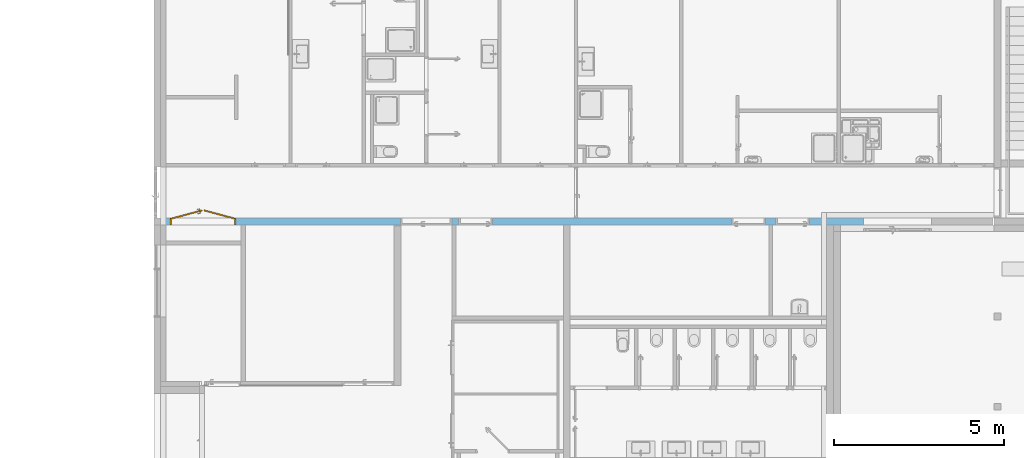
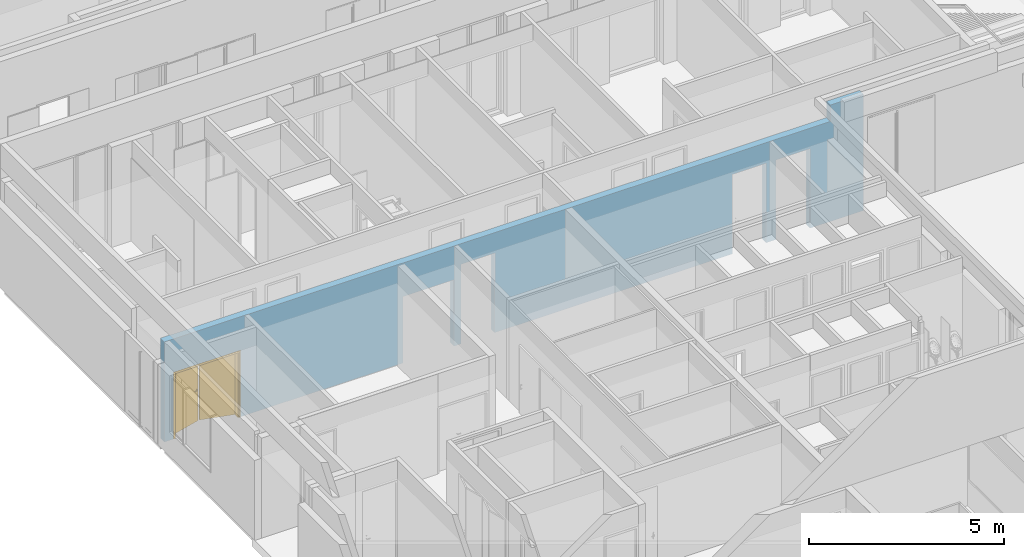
# One storey, part 201 of 240: 1 door, 6 openings, plus 1 element that does not belong to this part.
"""IFC2X3 building model written with IfcOpenShell, lengths in centimetres."""

from ifc_helpers import new_model, entity, si_unit, converted_unit, derived_unit, direction, frame, frame_2d, origin, place, context, subcontext, project, spatial, rectangle, extrude, faceted_brep, source, transform, mapped, material, material_list, layer, layer_set, layer_usage, type_object, type_shapes, element, fill, save


model = new_model("IFC2X3")

# Units and contexts
model_context = context("Model", 3, precision=0.001, world=origin(), true_north=direction((6.12303176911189e-17, 1.0)))
body_context = subcontext(model_context, "Body", "Model", "MODEL_VIEW")
ifc_project = project(units=[si_unit("LENGTHUNIT", "METRE", prefix="CENTI"), si_unit("AREAUNIT", "SQUARE_METRE"), si_unit("VOLUMEUNIT", "CUBIC_METRE"), converted_unit("PLANEANGLEUNIT", "DEGREE", entity("IfcRatioMeasure", 0.0174532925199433), si_unit("PLANEANGLEUNIT", "RADIAN"), dimensions=[0, 0, 0, 0, 0, 0, 0]), si_unit("MASSUNIT", "GRAM", prefix="KILO"), derived_unit("MASSDENSITYUNIT", [(si_unit("MASSUNIT", "GRAM", prefix="KILO"), 1), (si_unit("LENGTHUNIT", "METRE"), -3)]), si_unit("TIMEUNIT", "SECOND"), si_unit("FREQUENCYUNIT", "HERTZ"), si_unit("THERMODYNAMICTEMPERATUREUNIT", "DEGREE_CELSIUS"), derived_unit("THERMALTRANSMITTANCEUNIT", [(si_unit("MASSUNIT", "GRAM", prefix="KILO"), 1), (si_unit("THERMODYNAMICTEMPERATUREUNIT", "KELVIN"), -1), (si_unit("TIMEUNIT", "SECOND"), -3)]), derived_unit("VOLUMETRICFLOWRATEUNIT", [(si_unit("LENGTHUNIT", "METRE"), 3), (si_unit("TIMEUNIT", "SECOND"), -1)]), si_unit("ELECTRICCURRENTUNIT", "AMPERE"), si_unit("ELECTRICVOLTAGEUNIT", "VOLT"), si_unit("POWERUNIT", "WATT"), si_unit("FORCEUNIT", "NEWTON", prefix="KILO"), si_unit("ILLUMINANCEUNIT", "LUX"), si_unit("LUMINOUSFLUXUNIT", "LUMEN"), si_unit("LUMINOUSINTENSITYUNIT", "CANDELA"), derived_unit("USERDEFINED", [(si_unit("MASSUNIT", "GRAM", prefix="KILO"), -1), (si_unit("LENGTHUNIT", "METRE"), -2), (si_unit("TIMEUNIT", "SECOND"), 3), (si_unit("LUMINOUSFLUXUNIT", "LUMEN"), 1)]), derived_unit("LINEARVELOCITYUNIT", [(si_unit("LENGTHUNIT", "METRE"), 1), (si_unit("TIMEUNIT", "SECOND"), -1)]), si_unit("PRESSUREUNIT", "PASCAL"), derived_unit("USERDEFINED", [(si_unit("LENGTHUNIT", "METRE"), -2), (si_unit("MASSUNIT", "GRAM", prefix="KILO"), 1), (si_unit("TIMEUNIT", "SECOND"), -2)])], contexts=[model_context])

# Site, building, storey
site_placement = place(None, frame((-2781.94577612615, 7442.24238424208, 0.0)))
site = spatial("IfcSite", under=ifc_project, at=site_placement, Name="Default", CompositionType="ELEMENT")
building_placement = place(site_placement, origin())
building = spatial("IfcBuilding", under=site, at=building_placement, CompositionType="ELEMENT")
storey_placement = place(building_placement, origin())
storey = spatial("IfcBuildingStorey", under=building, at=storey_placement, Name="N00 - COO", CompositionType="ELEMENT", Elevation=0.0)

# Wall, openings, door
ifc_material_1 = material(Name="01 - Maçonnerie")
ifc_layer = layer(ifc_material_1, 20.0)
ifc_layer_set = layer_set([ifc_layer], Name="Mur de base:04 - Structure - béton - 20cm")
ifc_layer_usage = layer_usage(ifc_layer_set, "AXIS2", "NEGATIVE", 10.0)
wall_type = type_object("IfcWallType", Name="Mur de base:04 - Structure - béton - 20cm", PredefinedType="STANDARD", material=ifc_layer_set)
wall_placement = place(building_placement, frame((-10881.6130476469, -1920.07903364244, 0.0)))
wall = element("IfcWallStandardCase", 1, at=wall_placement, inside=storey, type_object=wall_type, material=ifc_layer_usage, Name="Mur de base:04 - Structure - béton - 20cm", ObjectType="Mur de base:04 - Structure - béton - 20cm", context=body_context, shape_type="SweptSolid", body=[
    extrude(rectangle(XDim=2067.62566675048, YDim=19.9999999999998, at=frame_2d((1033.81283337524, 9.32587340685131e-14), x_axis=(-1.0, 0.0))), origin(), (0.0, 0.0, 1.0), 364.000000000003),
])
opening_1_placement = place(wall_placement, origin())
element("IfcOpeningElement", 2, at=opening_1_placement, cuts=wall, Name="Mur de base:04 - Structure - béton - 20cm:4570", ObjectType="Opening", context=body_context, shape_type="SweptSolid", body=[
    extrude(rectangle(XDim=51.0000000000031, YDim=1979.68086759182, at=frame_2d((0.0, 0.0), x_axis=(0.0, 1.0))), frame((979.840433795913, 10.0, 338.500000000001), z_axis=(0.0, -1.0, 0.0), x_axis=(-1.0, 0.0, 0.0)), (0.0, 0.0, 1.0), 20.0),
])
opening_2_placement = place(wall_placement, frame((856.778497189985, 10.0, 0.0)))
element("IfcOpeningElement", 3, at=opening_2_placement, cuts=wall, Name="Int. Tierce:PP (1.44m x 2.04m):1", ObjectType="Opening", context=body_context, shape_type="SweptSolid", body=[
    extrude(rectangle(XDim=207.500000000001, YDim=151.0, at=frame_2d((103.750000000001, 75.4999999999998), x_axis=(1.0, 0.0))), frame((0.0, 0.0, 0.0), z_axis=(0.0, -1.0, 0.0), x_axis=(0.0, 0.0, 1.0)), (0.0, 0.0, 1.0), 20.0),
])
opening_3_placement = place(wall_placement, frame((976.778497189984, 10.0, 0.0)))
element("IfcOpeningElement", 4, at=opening_3_placement, cuts=wall, Name="Int. Simple:PP simple (0.93m x 2.50m):1", ObjectType="Opening", context=body_context, shape_type="SweptSolid", body=[
    extrude(rectangle(XDim=248.500000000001, YDim=99.9999999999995, at=frame_2d((124.250000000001, 49.9999999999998), x_axis=(1.0, 0.0))), frame((0.0, 0.0, 0.0), z_axis=(0.0, -1.0, 0.0), x_axis=(0.0, 0.0, 1.0)), (0.0, 0.0, 1.0), 20.0),
])
opening_4_placement = place(wall_placement, frame((1779.61305066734, 10.0, 0.0)))
element("IfcOpeningElement", 5, at=opening_4_placement, cuts=wall, Name="Int. Simple:PP simple (0.93m x 2.50m):1", ObjectType="Opening", context=body_context, shape_type="SweptSolid", body=[
    extrude(rectangle(XDim=248.500000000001, YDim=99.9999999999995, at=frame_2d((124.250000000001, 50.0), x_axis=(1.0, 0.0))), frame((0.0, 0.0, 0.0), z_axis=(0.0, -1.0, 0.0), x_axis=(0.0, 0.0, 1.0)), (0.0, 0.0, 1.0), 20.0),
])
opening_5_placement = place(wall_placement, frame((1909.61305066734, 10.0, 0.0)))
element("IfcOpeningElement", 6, at=opening_5_placement, cuts=wall, Name="Int. Simple:PP simple (0.93m x 2.50m):1", ObjectType="Opening", context=body_context, shape_type="SweptSolid", body=[
    extrude(rectangle(XDim=248.500000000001, YDim=99.9999999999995, at=frame_2d((124.250000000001, 49.9999999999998), x_axis=(1.0, 0.0))), frame((0.0, 0.0, 0.0), z_axis=(0.0, -1.0, 0.0), x_axis=(0.0, 0.0, 1.0)), (0.0, 0.0, 1.0), 20.0),
])
opening_6_placement = place(wall_placement, frame((27.500000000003, -10.0, 0.0)))
opening_6 = element("IfcOpeningElement", 7, at=opening_6_placement, cuts=wall, Name="Int. Double:PP Placard (1.88m x 2.04m):1", ObjectType="Opening", context=body_context, shape_type="SweptSolid", body=[
    extrude(rectangle(XDim=207.500000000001, YDim=195.0, at=frame_2d((103.750000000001, 97.5000000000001), x_axis=(1.0, 0.0))), frame((0.0, 0.0, 0.0), z_axis=(0.0, 1.0, 0.0), x_axis=(0.0, 0.0, 1.0)), (0.0, 0.0, 1.0), 20.0),
])
ifc_material_2 = material(Name="Bois - Panneau de porte")
ifc_material_3 = material(Name="Finition Peinture - Blanc satiné")
ifc_material_4 = material(Name="Bois - Cadre de porte")
ifc_material_list_1 = material_list([ifc_material_2, ifc_material_3, ifc_material_4])
ifc_material_list_2 = material_list([ifc_material_2, ifc_material_3, ifc_material_4])
door_style = type_object("IfcDoorStyle", Name="PP Placard (1.88m x 2.04m)", ConstructionType="NOTDEFINED", OperationType="DOUBLE_DOOR_SINGLE_SWING", ParameterTakesPrecedence=False, Sizeable=False, material=ifc_material_list_2)
shared_shape = source(origin(), body_context, "Body", "Brep", [
    faceted_brep([(95.3323038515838, -20.4652869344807, 204.0), (95.3323038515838, -20.4652869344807, 0.0), (4.53527618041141, 3.86370330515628, 0.0), (4.5352761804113, 3.86370330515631, 204.0), (94.2970276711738, -24.3289902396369, 204.0), (3.50000000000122, 0.0, 204.0), (3.50000000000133, 0.0, 0.0), (94.2970276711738, -24.3289902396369, 0.0)], [[[0, 1, 2, 3]], [[4, 5, 6, 7]], [[3, 5, 4, 0]], [[2, 6, 5, 3]], [[1, 7, 6, 2]], [[0, 4, 7, 1]]]),
    faceted_brep([(107.627936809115, -22.9910896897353, 86.6003983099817), (108.559788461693, -22.7414007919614, 87.0), (108.559788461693, -22.7414007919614, 108.0), (107.627936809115, -22.9910896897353, 108.399601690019), (106.627936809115, -23.2590388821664, 108.535898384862), (105.627936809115, -23.5269880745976, 108.399601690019), (104.696085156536, -23.7766769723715, 108.0), (104.696085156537, -23.7766769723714, 87.0), (105.627936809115, -23.5269880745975, 86.6003983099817), (106.627936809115, -23.2590388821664, 86.464101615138), (107.498527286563, -22.5081267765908, 108.399601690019), (108.430378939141, -22.2584378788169, 108.0), (108.430378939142, -22.2584378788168, 87.0), (107.498527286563, -22.5081267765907, 86.6003983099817), (106.498527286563, -22.7760759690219, 86.464101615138), (105.498527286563, -23.044025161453, 86.6003983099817), (104.566675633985, -23.2937140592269, 87.0), (104.566675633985, -23.2937140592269, 108.0), (105.498527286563, -23.044025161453, 108.399601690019), (106.498527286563, -22.7760759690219, 108.535898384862)], [[[0, 1, 2, 3, 4, 5, 6, 7, 8, 9]], [[10, 11, 12, 13, 14, 15, 16, 17, 18, 19]], [[16, 15, 8, 7]], [[8, 15, 14, 9]], [[14, 13, 0, 9]], [[13, 12, 1, 0]], [[2, 1, 12, 11]], [[11, 10, 3, 2]], [[3, 10, 19, 4]], [[19, 18, 5, 4]], [[18, 17, 6, 5]], [[7, 6, 17, 16]]]),
    faceted_brep([(106.463251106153, -18.6444234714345, 86.6003983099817), (107.395102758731, -18.3947345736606, 87.0), (107.395102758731, -18.3947345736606, 108.0), (106.463251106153, -18.6444234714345, 108.399601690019), (105.463251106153, -18.9123726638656, 108.535898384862), (104.463251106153, -19.1803218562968, 108.399601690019), (103.531399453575, -19.4300107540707, 108.0), (103.531399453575, -19.4300107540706, 87.0), (104.463251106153, -19.1803218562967, 86.6003983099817), (105.463251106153, -18.9123726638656, 86.464101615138), (106.333841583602, -18.16146055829, 108.399601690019), (107.26569323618, -17.9117716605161, 108.0), (107.26569323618, -17.911771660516, 87.0), (106.333841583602, -18.1614605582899, 86.6003983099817), (105.333841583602, -18.4294097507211, 86.464101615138), (104.333841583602, -18.6973589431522, 86.6003983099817), (103.401989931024, -18.9470478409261, 87.0), (103.401989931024, -18.9470478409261, 108.0), (104.333841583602, -18.6973589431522, 108.399601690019), (105.333841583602, -18.4294097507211, 108.535898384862)], [[[0, 1, 2, 3, 4, 5, 6, 7, 8, 9]], [[10, 11, 12, 13, 14, 15, 16, 17, 18, 19]], [[11, 10, 3, 2]], [[3, 10, 19, 4]], [[19, 18, 5, 4]], [[18, 17, 6, 5]], [[7, 6, 17, 16]], [[16, 15, 8, 7]], [[8, 15, 14, 9]], [[14, 13, 0, 9]], [[13, 12, 1, 0]], [[2, 1, 12, 11]]]),
    faceted_brep([(106.432307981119, -23.311457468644, 100.778044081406), (106.82356563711, -23.2066202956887, 100.778044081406), (107.207492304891, -23.1037474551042, 100.699999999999), (107.20749230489, -23.1037474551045, 99.3000000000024), (106.82356563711, -23.2066202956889, 99.2219559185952), (106.432307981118, -23.3114574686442, 99.221955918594), (106.048381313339, -23.4143303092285, 99.2999999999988), (106.048381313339, -23.4143303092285, 100.7), (106.764040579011, -26.085207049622, 100.7), (107.105355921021, -25.8233065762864, 100.778044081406), (109.070934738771, -26.958134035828, 100.778044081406), (109.12816179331, -26.5234514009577, 100.778044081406), (107.453188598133, -25.5564051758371, 100.778044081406), (107.794503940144, -25.2945047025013, 100.7), (107.794503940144, -25.2945047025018, 99.3000000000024), (107.453188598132, -25.5564051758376, 99.2219559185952), (109.12816179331, -26.5234514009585, 99.2219559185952), (109.070934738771, -26.9581340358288, 99.221955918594), (107.10535592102, -25.8233065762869, 99.221955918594), (106.76404057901, -26.0852070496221, 99.2999999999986), (109.014779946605, -27.3846720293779, 100.7), (109.184316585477, -26.0969134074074, 100.7), (109.184316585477, -26.0969134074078, 99.3000000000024), (109.014779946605, -27.3846720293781, 99.2999999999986), (117.480292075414, -25.1163448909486, 99.2999999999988), (117.37741923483, -24.7324182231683, 99.221955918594), (117.272582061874, -24.341160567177, 99.2219559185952), (117.169709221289, -23.957233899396, 99.3000000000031), (117.16970922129, -23.9572338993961, 100.7), (117.272582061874, -24.3411605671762, 100.778044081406), (117.377419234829, -24.7324182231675, 100.778044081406), (117.480292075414, -25.1163448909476, 100.699999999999), (112.871768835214, -26.3511949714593, 100.7), (113.252790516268, -25.6279348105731, 100.78786867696), (113.177012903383, -25.0270736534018, 100.7), (113.177012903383, -25.027073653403, 99.3000000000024), (113.252790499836, -25.627934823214, 99.2121313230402), (112.871769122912, -26.3511948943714, 99.2999999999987)], [[[0, 1, 2, 3, 4, 5, 6, 7]], [[8, 9, 0, 7]], [[9, 10, 11, 12, 1, 0]], [[12, 13, 2, 1]], [[3, 2, 13, 14]], [[14, 15, 4, 3]], [[15, 16, 17, 18, 5, 4]], [[18, 19, 6, 5]], [[7, 6, 19, 8]], [[20, 10, 9, 8]], [[11, 21, 13, 12]], [[14, 13, 21, 22]], [[22, 16, 15, 14]], [[17, 23, 19, 18]], [[8, 19, 23, 20]], [[24, 25, 26, 27, 28, 29, 30, 31]], [[32, 30, 33]], [[31, 30, 32]], [[10, 20, 32]], [[33, 34, 11]], [[21, 11, 34]], [[34, 29, 28]], [[30, 29, 33]], [[29, 34, 33]], [[10, 32, 33]], [[10, 33, 11]], [[22, 21, 34, 28, 27, 35]], [[35, 26, 36]], [[37, 36, 25]], [[22, 35, 16]], [[35, 27, 26]], [[24, 37, 25]], [[23, 17, 37]], [[37, 17, 36]], [[17, 16, 36]], [[16, 35, 36]], [[25, 36, 26]], [[20, 23, 37, 24, 31, 32]]]),
    faceted_brep([(105.138212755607, -18.4818283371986, 100.778044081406), (104.754286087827, -18.5847011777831, 100.7), (104.754286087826, -18.5847011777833, 99.2999999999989), (105.138212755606, -18.4818283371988, 99.221955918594), (105.529470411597, -18.3769911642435, 99.2219559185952), (105.913397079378, -18.2741183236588, 99.3000000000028), (105.913397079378, -18.2741183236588, 100.7), (105.529470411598, -18.3769911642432, 100.778044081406), (105.331437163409, -16.1022143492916, 99.3000000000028), (105.331437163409, -16.1022143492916, 100.7), (104.904899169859, -16.0460595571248, 100.778044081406), (105.881668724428, -14.3542450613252, 100.778044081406), (105.614767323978, -14.0064123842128, 100.778044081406), (104.470216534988, -15.9888325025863, 100.778044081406), (104.043678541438, -15.9326777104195, 100.7), (104.043678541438, -15.9326777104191, 99.2999999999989), (104.470216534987, -15.9888325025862, 99.221955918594), (105.614767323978, -14.006412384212, 99.221955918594), (105.881668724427, -14.3542450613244, 99.2219559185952), (104.904899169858, -16.0460595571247, 99.2219559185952), (106.143569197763, -14.6955604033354, 99.3000000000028), (106.143569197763, -14.6955604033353, 100.7), (105.352866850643, -13.6650970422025, 100.7), (105.352866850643, -13.6650970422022, 99.2999999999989), (114.118301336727, -12.5587373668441, 99.3000000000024), (114.015428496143, -12.1748106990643, 99.2219559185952), (113.910591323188, -11.783553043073, 99.221955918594), (113.807718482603, -11.3996263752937, 99.2999999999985), (113.807718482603, -11.3996263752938, 100.7), (113.910591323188, -11.7835530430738, 100.778044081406), (114.015428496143, -12.1748106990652, 100.778044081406), (114.118301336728, -12.5587373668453, 100.7), (110.130934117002, -13.6271491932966, 99.3000000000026), (110.130935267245, -13.6271488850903, 100.7), (109.896130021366, -13.0688990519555, 100.78786867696), (109.209855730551, -12.6316199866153, 100.7), (109.209855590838, -12.6316200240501, 99.2999999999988), (109.896130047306, -13.0688990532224, 99.2121313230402)], [[[0, 1, 2, 3, 4, 5, 6, 7]], [[6, 5, 8, 9]], [[9, 10, 7, 6]], [[10, 11, 12, 13, 0, 7]], [[13, 14, 1, 0]], [[2, 1, 14, 15]], [[15, 16, 3, 2]], [[16, 17, 18, 19, 4, 3]], [[19, 8, 5, 4]], [[9, 8, 20, 21]], [[21, 11, 10, 9]], [[12, 22, 14, 13]], [[15, 14, 22, 23]], [[23, 17, 16, 15]], [[18, 20, 8, 19]], [[24, 25, 26, 27, 28, 29, 30, 31]], [[21, 20, 32, 24, 31, 33]], [[33, 30, 34]], [[35, 34, 29]], [[21, 33, 11]], [[33, 31, 30]], [[28, 35, 29]], [[22, 12, 35]], [[35, 12, 34]], [[12, 11, 34]], [[11, 33, 34]], [[29, 34, 30]], [[22, 35, 28, 27, 36, 23]], [[36, 26, 37]], [[27, 26, 36]], [[17, 23, 36]], [[37, 32, 18]], [[20, 18, 32]], [[32, 25, 24]], [[26, 25, 37]], [[25, 32, 37]], [[17, 36, 37]], [[17, 37, 18]]]),
    faceted_brep([(99.6676961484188, -20.4652869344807, 204.0), (190.464723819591, 3.86370330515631, 204.0), (190.464723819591, 3.86370330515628, 0.0), (99.6676961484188, -20.4652869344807, 0.0), (100.702972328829, -24.3289902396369, 204.0), (100.702972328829, -24.3289902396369, 0.0), (191.500000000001, 0.0, 0.0), (191.500000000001, 0.0, 204.0)], [[[0, 1, 2, 3]], [[4, 5, 6, 7]], [[1, 0, 4, 7]], [[2, 1, 7, 6]], [[3, 2, 6, 5]], [[0, 3, 5, 4]]]),
    faceted_brep([(0.0, 0.0, 0.0), (0.0, 20.0, 0.0), (5.0, 20.0, 0.0), (5.0, 4.0, 0.0), (3.50000000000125, 4.0, 0.0), (3.50000000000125, 0.0, 0.0), (0.0, 0.0, 207.500000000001), (0.0, 20.0, 207.500000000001), (195.0, 20.0, 207.500000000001), (195.0, 20.0, 0.0), (190.0, 20.0, 0.0), (190.0, 20.0, 202.5), (5.0, 20.0, 202.5), (5.0, 4.0, 202.5), (190.0, 4.0, 202.5), (190.0, 4.0, 0.0), (191.499999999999, 4.0, 0.0), (191.499999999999, 4.0, 204.0), (3.50000000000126, 4.0, 204.0), (3.50000000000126, 0.0, 204.0), (191.499999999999, 0.0, 204.0), (191.499999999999, 0.0, 0.0), (195.0, 0.0, 0.0), (195.0, 0.0, 207.500000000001)], [[[0, 1, 2, 3, 4, 5]], [[1, 0, 6, 7]], [[2, 1, 7, 8, 9, 10, 11, 12]], [[3, 2, 12, 13]], [[4, 3, 13, 14, 15, 16, 17, 18]], [[5, 4, 18, 19]], [[0, 5, 19, 20, 21, 22, 23, 6]], [[8, 23, 22, 9]], [[22, 21, 16, 15, 10, 9]], [[14, 11, 10, 15]], [[20, 17, 16, 21]], [[7, 6, 23, 8]], [[13, 12, 11, 14]], [[19, 18, 17, 20]]]),
    faceted_brep([(1.49999999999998, 20.0, 0.0), (-1.50000000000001, 20.0, 0.0), (-1.50000000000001, 20.5000000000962, 0.0), (1.49999999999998, 20.5000000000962, 0.0), (1.49999999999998, 20.0, 206.0), (193.5, 20.0, 206.0), (193.5, 20.0, 0.0), (196.5, 20.0, 0.0), (196.5, 20.0, 209.0), (-1.50000000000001, 20.0, 209.0), (-1.50000000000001, 20.5000000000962, 209.0), (196.5, 20.5000000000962, 209.0), (196.5, 20.5000000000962, 0.0), (193.5, 20.5000000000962, 0.0), (193.5, 20.5000000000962, 206.0), (1.5, 20.5000000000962, 206.0)], [[[0, 1, 2, 3]], [[1, 0, 4, 5, 6, 7, 8, 9]], [[2, 1, 9, 10]], [[3, 2, 10, 11, 12, 13, 14, 15]], [[0, 3, 15, 4]], [[5, 14, 13, 6]], [[6, 13, 12, 7]], [[11, 8, 7, 12]], [[10, 9, 8, 11]], [[4, 15, 14, 5]]]),
    faceted_brep([(-1.50000000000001, -0.500000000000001, 0.0), (1.49999999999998, -0.500000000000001, 0.0), (1.49999999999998, -0.500000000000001, 206.0), (193.5, -0.500000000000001, 206.0), (193.5, -0.500000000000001, 0.0), (196.5, -0.500000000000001, 0.0), (196.5, -0.500000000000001, 209.0), (-1.50000000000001, -0.500000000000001, 209.0), (-1.50000000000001, 0.0, 0.0), (-1.50000000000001, 0.0, 209.0), (1.49999999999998, 0.0, 0.0), (196.5, 0.0, 209.0), (196.5, 0.0, 0.0), (193.5, 0.0, 0.0), (193.5, 0.0, 206.0), (1.5, 0.0, 206.0)], [[[0, 1, 2, 3, 4, 5, 6, 7]], [[8, 0, 7, 9]], [[10, 8, 9, 11, 12, 13, 14, 15]], [[1, 10, 15, 2]], [[3, 14, 13, 4]], [[11, 6, 5, 12]], [[9, 7, 6, 11]], [[2, 15, 14, 3]], [[4, 13, 12, 5]], [[1, 0, 8, 10]]]),
])
type_shapes(door_style, [shared_shape])
door_placement = place(opening_6_placement, frame((195.0, 20.0, 0.0), z_axis=(0.0, 0.0, 1.0), x_axis=(-1.0, 0.0, 0.0)))
door = element("IfcDoor", 8, at=door_placement, inside=storey, type_object=door_style, material=ifc_material_list_1, Name="Int. Double:PP Placard (1.88m x 2.04m)", ObjectType="Int. Double:PP Placard (1.88m x 2.04m)", OverallHeight=207.500000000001, OverallWidth=195.000000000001, context=body_context, shape_type="MappedRepresentation", body=[
    mapped(shared_shape, transform((0.0, 0.0, 0.0), scale=1.0)),
])
fill(opening_6, door)

save(model, "model.ifc")
